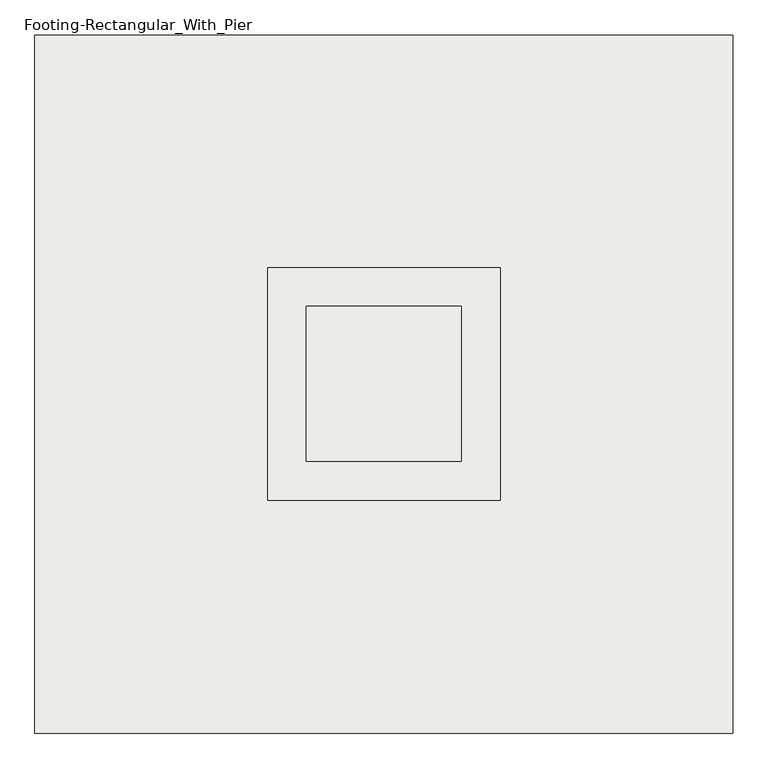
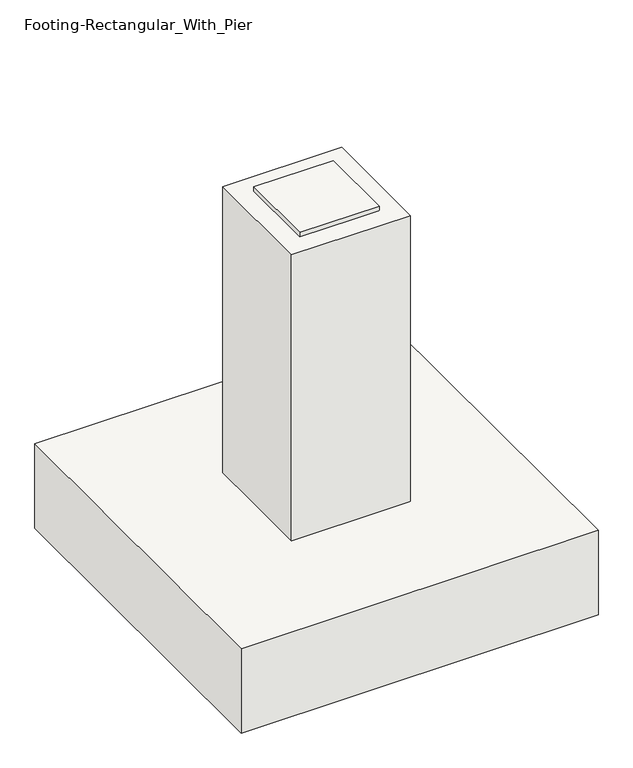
"""IFC4 building model written with IfcOpenShell, lengths in millimetres: slab geometry."""

from ifc_helpers import new_model, si_unit, frame, origin, origin_with_axes, place, context, project, spatial, polyline, outline, extrude, source, transform, mapped, element, save


def footing_rectangular_with_pier_e052c68f(model_context):
    return source(origin(), model_context, "Body", "SweptSolid", [
        extrude(outline(polyline([(203.2, 203.2), (203.2, -203.2), (-203.2, -203.2), (-203.2, 203.2), (203.2, 203.2)])), frame((0.0, 0.0, 1549.4), z_axis=(0.0, 0.0, 1.0), x_axis=(1.0, 0.0, 0.0)), (0.0, 0.0, 1.0), 25.4),
        extrude(outline(polyline([(914.4, 914.4), (914.4, -914.4), (-914.4, -914.4), (-914.4, 914.4), (914.4, 914.4)])), frame((0.0, 0.0, -457.2), z_axis=(0.0, 0.0, 1.0), x_axis=(1.0, 0.0, 0.0)), (0.0, 0.0, 1.0), 457.2),
        extrude(outline(polyline([(304.8, 304.8), (304.8, -304.8), (-304.8, -304.8), (-304.8, 304.8), (304.8, 304.8)])), origin_with_axes(), (0.0, 0.0, 1.0), 1549.4),
    ])


if __name__ == "__main__":
    model = new_model("IFC4")
    model_context = context("Model", 3, world=origin())
    ifc_project = project(units=[si_unit("LENGTHUNIT", "METRE", prefix="MILLI")], contexts=[model_context])
    site = spatial("IfcSite", under=ifc_project)
    building = spatial("IfcBuilding", under=site)
    placement = place(None, origin())
    footing_rectangular_with_pier_shape = footing_rectangular_with_pier_e052c68f(model_context)
    element("IfcSlab", 1, ObjectType="Footing-Rectangular_With_Pier : F3 - 6'-0\" x 6'-0\" x 1'-6\"", at=placement, inside=building, context=model_context, shape_type="MappedRepresentation", body=[
        mapped(footing_rectangular_with_pier_shape, transform((0.0, 0.0, 0.0), x_axis=(1.0, 0.0, 0.0), y_axis=(0.0, 1.0, 0.0), z_axis=(0.0, 0.0, 1.0))),
    ])
    save(model, "model.ifc")
